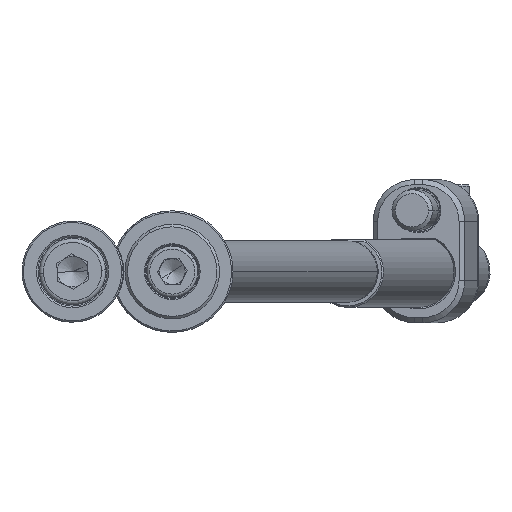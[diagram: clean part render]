
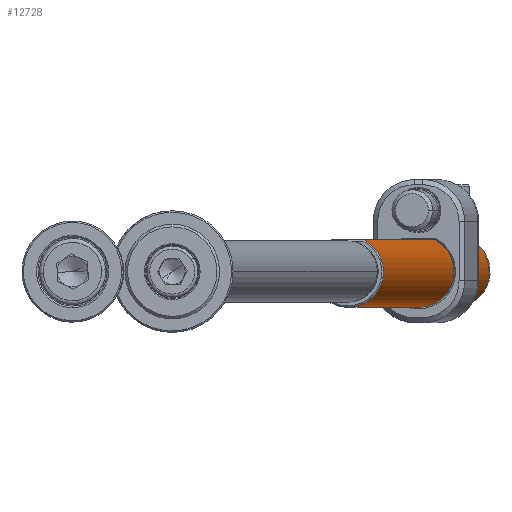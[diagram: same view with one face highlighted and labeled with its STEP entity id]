
A CAD part, front view. The second image highlights one B-rep face of the part: STEP entity #12728.
In plain terms, the highlighted cylindrical face has radius 7 mm (diameter 14 mm), a partial arc.
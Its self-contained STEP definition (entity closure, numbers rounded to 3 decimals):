
#361 = VERTEX_POINT ( 'NONE', #6554 ) ;
#558 = DIRECTION ( 'NONE',  ( 0., 0., -1. ) ) ;
#861 = AXIS2_PLACEMENT_3D ( 'NONE', #8873, #10985, #7863 ) ;
#1442 = ORIENTED_EDGE ( 'NONE', *, *, #12535, .T. ) ;
#1595 = CARTESIAN_POINT ( 'NONE',  ( 6.2, -3.25, 7.5 ) ) ;
#1616 = CARTESIAN_POINT ( 'NONE',  ( 5.876, -3.804, 11.25 ) ) ;
#1807 = ORIENTED_EDGE ( 'NONE', *, *, #9167, .F. ) ;
#1908 = CARTESIAN_POINT ( 'NONE',  ( 5.78, -3.95, 9.275 ) ) ;
#2163 = LINE ( 'NONE', #8731, #3814 ) ;
#2175 = DIRECTION ( 'NONE',  ( 0., 0., -1. ) ) ;
#2258 = EDGE_CURVE ( 'NONE', #361, #4448, #6445, .T. ) ;
#2276 = CARTESIAN_POINT ( 'NONE',  ( 6.2, -3.25, 199.7 ) ) ;
#2366 = B_SPLINE_CURVE_WITH_KNOTS ( 'NONE', 3,
 ( #7183, #8494, #4991, #10608 ),
 .UNSPECIFIED., .F., .F.,
 ( 4, 4 ),
 ( 0., 0. ),
 .UNSPECIFIED. ) ;
#2681 = CARTESIAN_POINT ( 'NONE',  ( 0., 0., 199.7 ) ) ;
#2951 = CARTESIAN_POINT ( 'NONE',  ( -7., 0., 200. ) ) ;
#2969 = AXIS2_PLACEMENT_3D ( 'NONE', #2681, #7274, #7211 ) ;
#2985 = CARTESIAN_POINT ( 'NONE',  ( 5.876, -3.805, 8.752 ) ) ;
#3087 = ORIENTED_EDGE ( 'NONE', *, *, #10483, .T. ) ;
#3340 = B_SPLINE_CURVE_WITH_KNOTS ( 'NONE', 3,
 ( #1595, #6920, #6043, #10490 ),
 .UNSPECIFIED., .F., .F.,
 ( 4, 4 ),
 ( 0., 0. ),
 .UNSPECIFIED. ) ;
#3537 = VECTOR ( 'NONE', #558, 1000. ) ;
#3737 = CARTESIAN_POINT ( 'NONE',  ( 6.2, -3.25, 7.5 ) ) ;
#3781 = CARTESIAN_POINT ( 'NONE',  ( 6.1, -3.434, 12.052 ) ) ;
#3814 = VECTOR ( 'NONE', #9896, 1000. ) ;
#4207 = DIRECTION ( 'NONE',  ( 0., 0., -1. ) ) ;
#4252 = VERTEX_POINT ( 'NONE', #8953 ) ;
#4448 = VERTEX_POINT ( 'NONE', #4853 ) ;
#4717 = CARTESIAN_POINT ( 'NONE',  ( 6.2, -3.25, 12.5 ) ) ;
#4820 = VERTEX_POINT ( 'NONE', #4717 ) ;
#4853 = CARTESIAN_POINT ( 'NONE',  ( 6.2, -3.25, 0.3 ) ) ;
#4897 = CARTESIAN_POINT ( 'NONE',  ( 6.049, -3.524, 11.901 ) ) ;
#4908 = ORIENTED_EDGE ( 'NONE', *, *, #8048, .T. ) ;
#4991 = CARTESIAN_POINT ( 'NONE',  ( 6.164, -3.317, 12.354 ) ) ;
#5167 = EDGE_CURVE ( 'NONE', #11502, #361, #9378, .T. ) ;
#5330 = CARTESIAN_POINT ( 'NONE',  ( 5.781, -3.95, 10.729 ) ) ;
#5396 = CARTESIAN_POINT ( 'NONE',  ( 5.745, -4., 10.372 ) ) ;
#6043 = CARTESIAN_POINT ( 'NONE',  ( 6.131, -3.379, 7.796 ) ) ;
#6279 = CARTESIAN_POINT ( 'NONE',  ( 6.1, -3.434, 7.948 ) ) ;
#6322 = LINE ( 'NONE', #10915, #9545 ) ;
#6445 = CIRCLE ( 'NONE', #861, 7. ) ;
#6554 = CARTESIAN_POINT ( 'NONE',  ( -7., 0., 0.3 ) ) ;
#6920 = CARTESIAN_POINT ( 'NONE',  ( 6.164, -3.317, 7.646 ) ) ;
#6931 = AXIS2_PLACEMENT_3D ( 'NONE', #14167, #2175, #14313 ) ;
#7147 = CARTESIAN_POINT ( 'NONE',  ( 6.002, -3.604, 11.745 ) ) ;
#7183 = CARTESIAN_POINT ( 'NONE',  ( 6.1, -3.434, 12.052 ) ) ;
#7206 = VERTEX_POINT ( 'NONE', #2276 ) ;
#7211 = DIRECTION ( 'NONE',  ( 1., 0., 0. ) ) ;
#7274 = DIRECTION ( 'NONE',  ( 0., 0., -1. ) ) ;
#7425 = EDGE_CURVE ( 'NONE', #8226, #4448, #2163, .T. ) ;
#7454 = CARTESIAN_POINT ( 'NONE',  ( 5.915, -3.744, 8.582 ) ) ;
#7863 = DIRECTION ( 'NONE',  ( 1., 0., 0. ) ) ;
#8048 = EDGE_CURVE ( 'NONE', #8226, #8976, #3340, .T. ) ;
#8226 = VERTEX_POINT ( 'NONE', #3737 ) ;
#8494 = CARTESIAN_POINT ( 'NONE',  ( 6.131, -3.379, 12.204 ) ) ;
#8522 = EDGE_CURVE ( 'NONE', #4252, #8976, #10642, .T. ) ;
#8704 = ORIENTED_EDGE ( 'NONE', *, *, #8522, .F. ) ;
#8731 = CARTESIAN_POINT ( 'NONE',  ( 6.2, -3.25, 200. ) ) ;
#8873 = CARTESIAN_POINT ( 'NONE',  ( 0., 0., 0.3 ) ) ;
#8953 = CARTESIAN_POINT ( 'NONE',  ( 6.1, -3.434, 12.052 ) ) ;
#8976 = VERTEX_POINT ( 'NONE', #10666 ) ;
#9167 = EDGE_CURVE ( 'NONE', #7206, #4820, #6322, .T. ) ;
#9378 = LINE ( 'NONE', #2951, #3537 ) ;
#9545 = VECTOR ( 'NONE', #4207, 1000. ) ;
#9789 = CARTESIAN_POINT ( 'NONE',  ( 6.049, -3.524, 8.099 ) ) ;
#9896 = DIRECTION ( 'NONE',  ( 0., 0., -1. ) ) ;
#10197 = ORIENTED_EDGE ( 'NONE', *, *, #2258, .T. ) ;
#10483 = EDGE_CURVE ( 'NONE', #4252, #4820, #2366, .T. ) ;
#10490 = CARTESIAN_POINT ( 'NONE',  ( 6.1, -3.434, 7.948 ) ) ;
#10608 = CARTESIAN_POINT ( 'NONE',  ( 6.2, -3.25, 12.5 ) ) ;
#10642 = B_SPLINE_CURVE_WITH_KNOTS ( 'NONE', 3,
 ( #3781, #4897, #7147, #11595, #1616, #5330, #5396, #10880, #1908, #2985, #7454, #14245, #9789, #6279 ),
 .UNSPECIFIED., .F., .F.,
 ( 4, 2, 2, 2, 2, 2, 4 ),
 ( 0., 0.001, 0.001, 0.003, 0.004, 0.004, 0.005 ),
 .UNSPECIFIED. ) ;
#10666 = CARTESIAN_POINT ( 'NONE',  ( 6.1, -3.434, 7.948 ) ) ;
#10832 = CARTESIAN_POINT ( 'NONE',  ( -7., 0., 199.7 ) ) ;
#10880 = CARTESIAN_POINT ( 'NONE',  ( 5.744, -4., 9.635 ) ) ;
#10915 = CARTESIAN_POINT ( 'NONE',  ( 6.2, -3.25, 200. ) ) ;
#10985 = DIRECTION ( 'NONE',  ( 0., 0., 1. ) ) ;
#11064 = CYLINDRICAL_SURFACE ( 'NONE', #6931, 7. ) ;
#11502 = VERTEX_POINT ( 'NONE', #10832 ) ;
#11555 = ORIENTED_EDGE ( 'NONE', *, *, #5167, .T. ) ;
#11595 = CARTESIAN_POINT ( 'NONE',  ( 5.915, -3.744, 11.42 ) ) ;
#11697 = EDGE_LOOP ( 'NONE', ( #1442, #11555, #10197, #13647, #4908, #8704, #3087, #1807 ) ) ;
#12283 = CIRCLE ( 'NONE', #2969, 7. ) ;
#12535 = EDGE_CURVE ( 'NONE', #7206, #11502, #12283, .T. ) ;
#12728 = ADVANCED_FACE ( 'NONE', ( #13019 ), #11064, .T. ) ;
#13019 = FACE_OUTER_BOUND ( 'NONE', #11697, .T. ) ;
#13647 = ORIENTED_EDGE ( 'NONE', *, *, #7425, .F. ) ;
#14167 = CARTESIAN_POINT ( 'NONE',  ( 0., 0., 200. ) ) ;
#14245 = CARTESIAN_POINT ( 'NONE',  ( 6.001, -3.604, 8.256 ) ) ;
#14313 = DIRECTION ( 'NONE',  ( -1., 0., 0. ) ) ;
